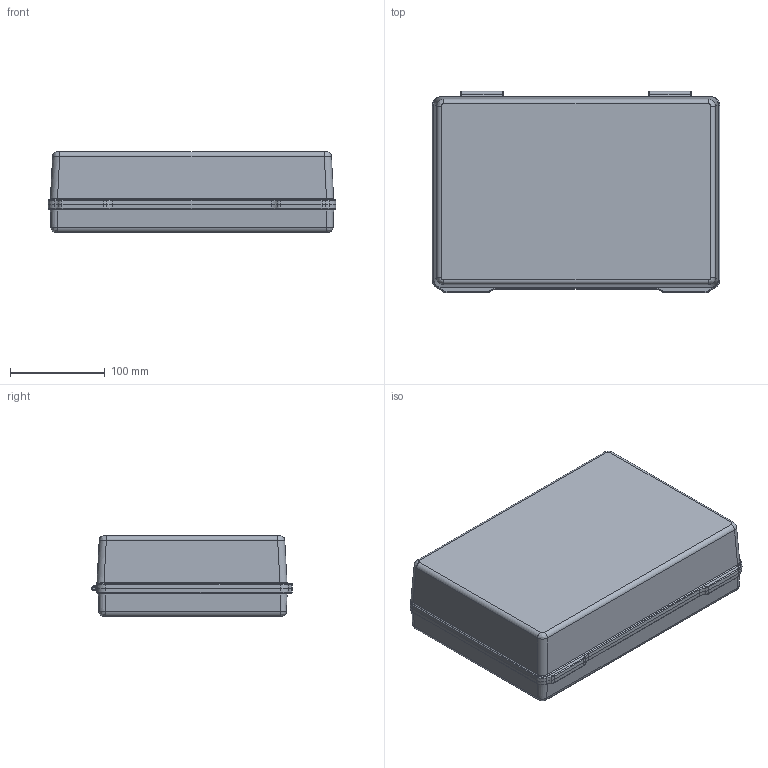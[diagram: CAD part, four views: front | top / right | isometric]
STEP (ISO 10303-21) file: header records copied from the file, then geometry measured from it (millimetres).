
FILE_DESCRIPTION(/* description */ (''),/* implementation_level */ '2;1');
FILE_NAME(/* name */ 'B3_Case_OT-UT.stp',/* time_stamp */ '2014-10-06T09:36:07+02:00',/* author */ (''),/* organization */ (''),/* preprocessor_version */ 'ST-DEVELOPER v15',/* originating_system */ 'SIEMENS PLM Software NX 8.5',/* authorisation */ '');
FILE_SCHEMA (('AUTOMOTIVE_DESIGN { 1 0 10303 214 3 1 1 1 }'));
Length unit declared in the file: millimetre
Products named in the file (1): pk1A9099730gw4
Bounding box: 304 x 212.56 x 85.1 mm (x, y, z)
Volume: 509667.1 mm3; surface area: 399463.6 mm2
Topology: 2 solids, 2 shells, 482 faces, 1169 edges, 676 vertices
Faces by surface type: cylinder 180, bspline 128, plane 96, torus 52, cone 26
Entity records: 16033 total; most frequent: CARTESIAN_POINT 5432, ORIENTED_EDGE 2306, DIRECTION 2161, EDGE_CURVE 1153, AXIS2_PLACEMENT_3D 847, VERTEX_POINT 678, EDGE_LOOP 485, ADVANCED_FACE 482
